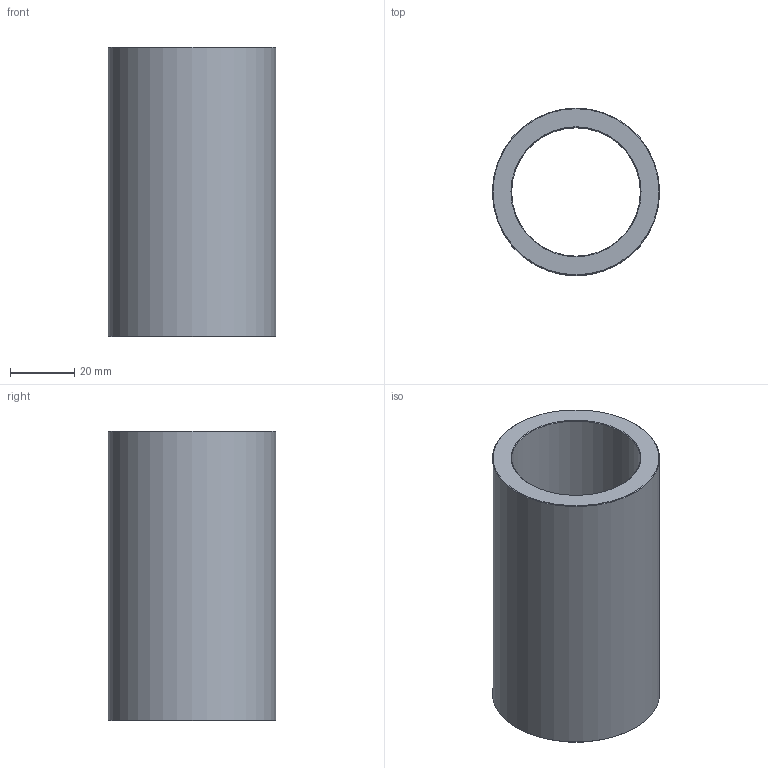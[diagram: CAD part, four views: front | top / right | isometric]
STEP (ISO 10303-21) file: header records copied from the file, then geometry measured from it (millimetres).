
FILE_DESCRIPTION(('STEP AP203'),'1');
FILE_NAME('C:/Users/Rodrigo/Desktop/GA6.040.090-1.step','2016-11-07T18:55:45',(' '),(' '),'Spatial InterOp 3D',' ',' ');
FILE_SCHEMA(('CONFIG_CONTROL_DESIGN'));
Length unit declared in the file: millimetre
Products named in the file (1): 1
Bounding box: 52 x 52 x 90 mm (x, y, z)
Volume: 78025.6 mm3; surface area: 27678.8 mm2
Topology: 1 solids, 1 shells, 8 faces, 14 edges, 8 vertices
Faces by surface type: cone 4, cylinder 2, plane 2
Full cylindrical faces by diameter (mm): 40 x1, 52 x1
Entity records: 212 total; most frequent: DIRECTION 34, CARTESIAN_POINT 25, AXIS2_PLACEMENT_3D 17, EDGE_LOOP 16, ORIENTED_EDGE 16, FACE_OUTER_BOUND 10, ADVANCED_FACE 8, EDGE_CURVE 8
